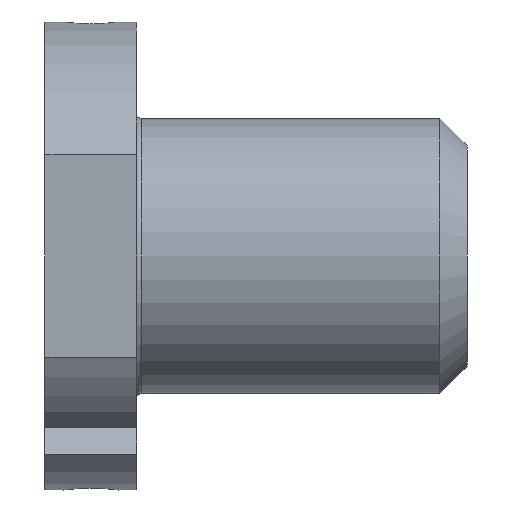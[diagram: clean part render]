
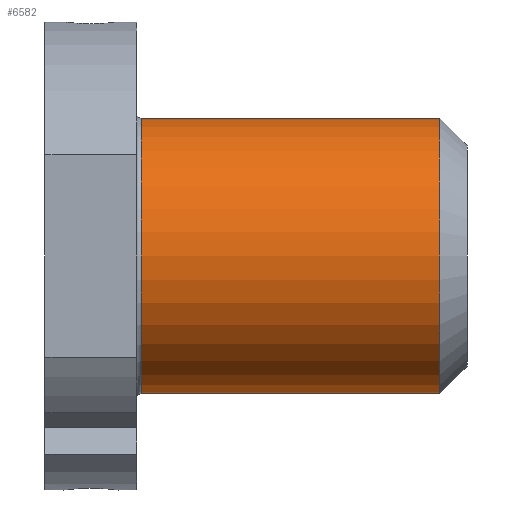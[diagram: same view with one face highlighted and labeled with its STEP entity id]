
A CAD part, front view. The second image highlights one B-rep face of the part: STEP entity #6582.
In plain terms, the highlighted cylindrical face has radius 15 mm (diameter 30 mm), a partial arc.
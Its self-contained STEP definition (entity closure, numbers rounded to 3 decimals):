
#1=CARTESIAN_POINT('',(43.,0.,0.));
#2=DIRECTION('',(-1.,0.,0.));
#3=DIRECTION('',(0.,0.,-1.));
#4=AXIS2_PLACEMENT_3D('',#1,#2,#3);
#19=CARTESIAN_POINT('',(10.5,0.,0.));
#20=DIRECTION('',(1.,0.,0.));
#21=DIRECTION('',(0.,0.,1.));
#22=AXIS2_PLACEMENT_3D('',#19,#20,#21);
#24=DIRECTION('',(-1.,0.,0.));
#25=VECTOR('',#24,32.5);
#26=CARTESIAN_POINT('',(43.,0.,15.));
#27=LINE('',#26,#25);
#28=DIRECTION('',(-1.,0.,0.));
#29=VECTOR('',#28,32.5);
#30=CARTESIAN_POINT('',(43.,0.,-15.));
#31=LINE('',#30,#29);
#4927=CARTESIAN_POINT('',(43.,0.,-15.));
#4928=CARTESIAN_POINT('',(43.,0.,15.));
#4929=VERTEX_POINT('',#4927);
#4930=VERTEX_POINT('',#4928);
#6531=CARTESIAN_POINT('',(10.5,0.,15.));
#6532=CARTESIAN_POINT('',(10.5,0.,-15.));
#6533=VERTEX_POINT('',#6531);
#6534=VERTEX_POINT('',#6532);
#6568=CARTESIAN_POINT('',(-2.3,0.,0.));
#6569=DIRECTION('',(1.,0.,0.));
#6570=DIRECTION('',(0.,0.,1.));
#6571=AXIS2_PLACEMENT_3D('',#6568,#6569,#6570);
#6572=CYLINDRICAL_SURFACE('',#6571,15.);
#6574=ORIENTED_EDGE('',*,*,#6573,.F.);
#6576=ORIENTED_EDGE('',*,*,#6575,.F.);
#6577=ORIENTED_EDGE('',*,*,#6558,.F.);
#6579=ORIENTED_EDGE('',*,*,#6578,.T.);
#6580=EDGE_LOOP('',(#6574,#6576,#6577,#6579));
#6581=FACE_OUTER_BOUND('',#6580,.F.);
#6582=ADVANCED_FACE('',(#6581),#6572,.T.);
#5=CIRCLE('',#4,15.);
#23=CIRCLE('',#22,15.);
#6558=EDGE_CURVE('',#4929,#4930,#5,.T.);
#6573=EDGE_CURVE('',#6533,#6534,#23,.T.);
#6575=EDGE_CURVE('',#4930,#6533,#27,.T.);
#6578=EDGE_CURVE('',#4929,#6534,#31,.T.);
